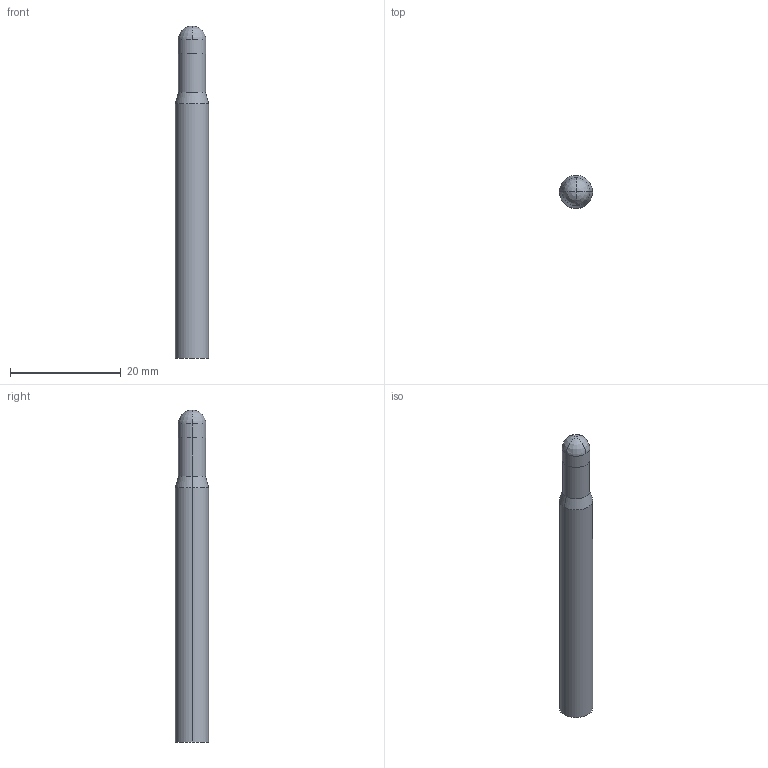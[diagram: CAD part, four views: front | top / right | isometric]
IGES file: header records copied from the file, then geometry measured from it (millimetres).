
Start section: 3D InterOp IGES (v. 2020 1.0.1), Spatial Corp. Copyright (c) 1999-2017.
Global section: file name: WZF28796_5_12.igs; native system: Spatial Corp.; preprocessor: 3D InterOp GENERIC/IGES 3.0; author: Noname; organization: Noname; date: 20201007.093907; units: metre
Bounding box: 6 x 6 x 60 mm (x, y, z)
Surface area: 1117.8 mm2 (no closed solid volume)
Topology: 0 solids, 0 shells, 14 faces, 56 edges, 52 vertices
Faces by surface type: revolution 12, extrusion 2
